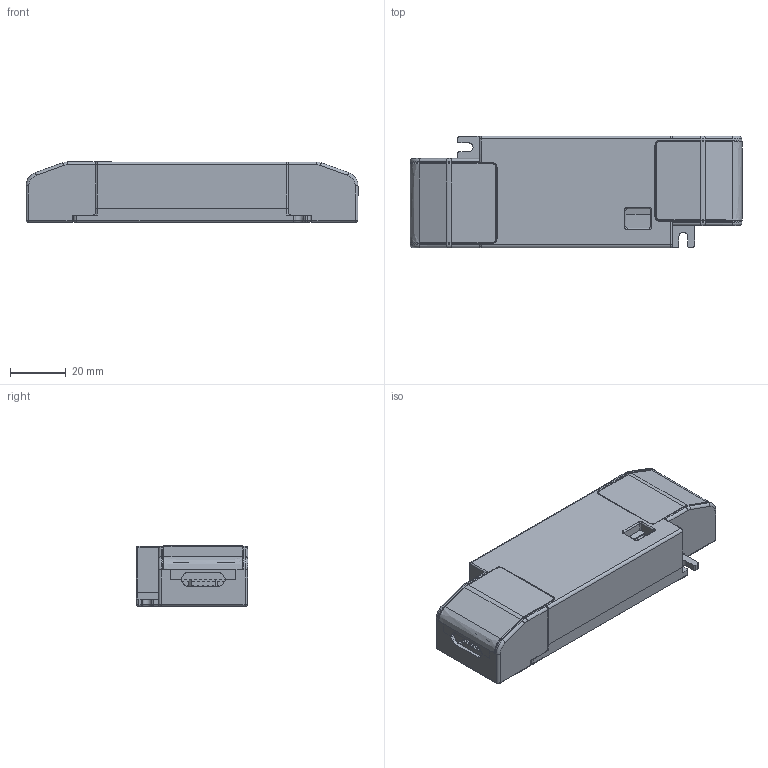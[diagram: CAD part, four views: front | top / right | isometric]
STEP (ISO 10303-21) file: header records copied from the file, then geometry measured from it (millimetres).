
FILE_DESCRIPTION(/* description */ (''),/* implementation_level */ '2;1');
FILE_NAME(/* name */ 'FLS-12-350 DALI2 LD',/* time_stamp */ '2022-07-18T16:46:15+08:00',/* author */ (''),/* organization */ (''),/* preprocessor_version */ 'ST-DEVELOPER v16.5',/* originating_system */ '',/* authorisation */ '');
FILE_SCHEMA (('AUTOMOTIVE_DESIGN'));
Length unit declared in the file: millimetre
Products named in the file (1): Document
Bounding box: 119 x 40 x 21.52 mm (x, y, z)
Volume: 26395.5 mm3; surface area: 42164.2 mm2
Topology: 6 solids, 6 shells, 1222 faces, 3413 edges, 2199 vertices
Faces by surface type: plane 695, bspline 527
Entity records: 46218 total; most frequent: CARTESIAN_POINT 25480, ORIENTED_EDGE 6826, EDGE_CURVE 3413, B_SPLINE_CURVE_WITH_KNOTS 2504, VERTEX_POINT 2199, EDGE_LOOP 1224, ADVANCED_FACE 1222, FACE_OUTER_BOUND 1222
